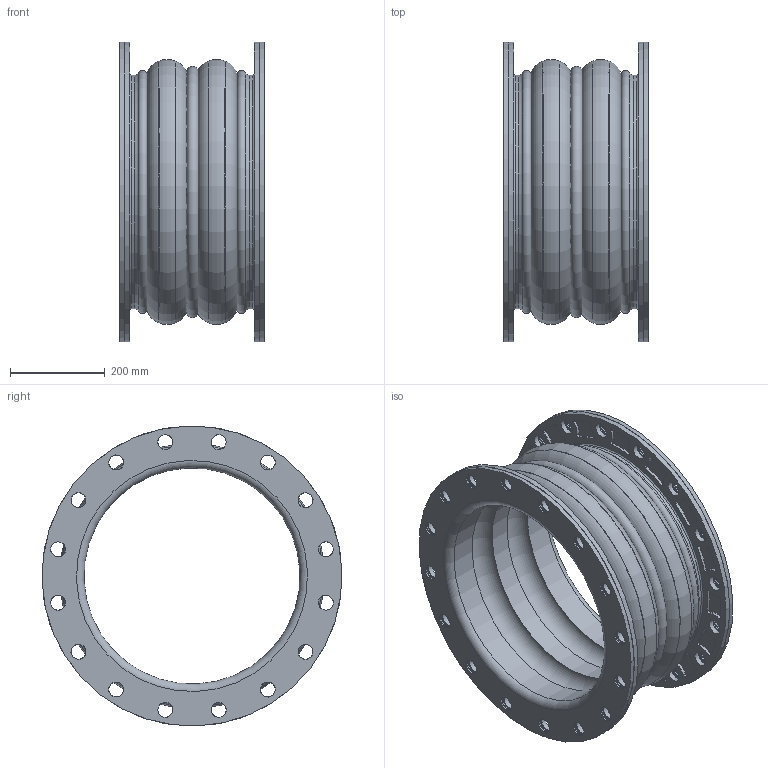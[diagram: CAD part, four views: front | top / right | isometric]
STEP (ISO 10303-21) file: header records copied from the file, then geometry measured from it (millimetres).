
FILE_DESCRIPTION((''),'2;1');
FILE_NAME('C:\2011_Work\Designs\Mercer\Stock Joints\450 Style\452\STEP\Style452 18x12.stp','2013-07-26T17:26:17',('mquog'),(''),'Autodesk Inventor 2011','Autodesk Inventor 2011','');
FILE_SCHEMA(('AUTOMOTIVE_DESIGN { 1 0 10303 214 1 1 1 1 }'));
Length unit declared in the file: inch
Products named in the file (4): Style452 18x12; 18DI450BUR150; 18_MBR; 452 18x12
Assembly tree (4 placements, depth 2):
  Style452 18x12
    18DI450BUR150  x2
    18_MBR
    452 18x12
Bounding box: 304.8 x 634.85 x 634.85 mm (x, y, z)
Volume: 16190688.5 mm3; surface area: 12693667.1 mm2
Topology: 36 solids, 36 shells, 745 faces, 1838 edges, 1193 vertices
Faces by surface type: cylinder 538, torus 103, plane 100, cone 4
Full cylindrical faces by diameter (mm): 31.75 x224, 457.2 x3, 463.55 x6, 469.9 x12, 473.761 x6, 477.622 x6, 480.797 x3, 488.95 x6, 628.65 x12, 635 x4
Entity records: 16592 total; most frequent: DIRECTION 3086, CARTESIAN_POINT 2502, ORIENTED_EDGE 2048, AXIS2_PLACEMENT_3D 1479, EDGE_LOOP 1437, EDGE_CURVE 1024, CIRCLE 896, VERTEX_POINT 895
